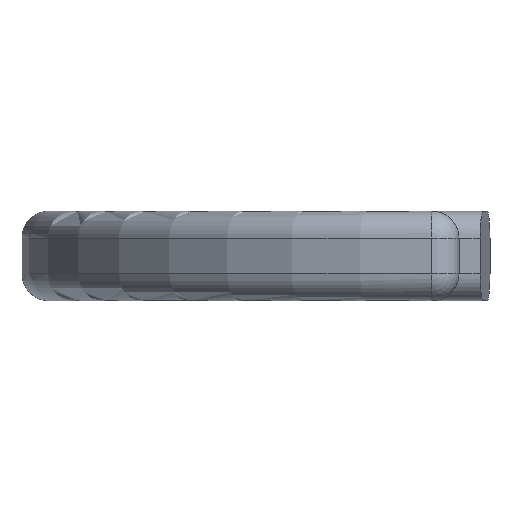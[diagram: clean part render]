
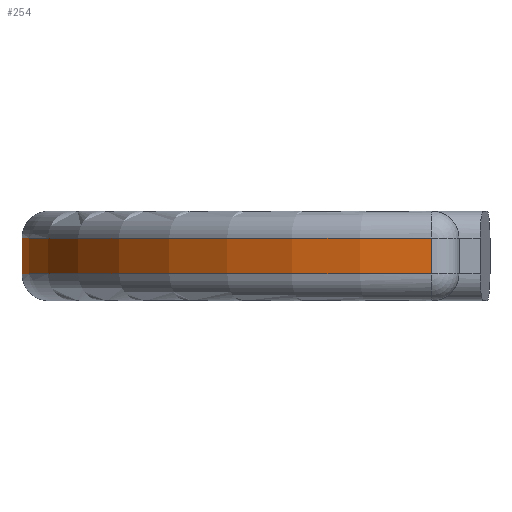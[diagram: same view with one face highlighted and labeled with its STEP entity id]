
A CAD part, front view. The second image highlights one B-rep face of the part: STEP entity #254.
In plain terms, the highlighted cylindrical face has radius 47 mm (diameter 94 mm), a partial arc.
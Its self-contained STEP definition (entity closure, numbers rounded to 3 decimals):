
#51 = VERTEX_POINT ( 'NONE', #543 ) ;
#60 = CARTESIAN_POINT ( 'NONE',  ( -52.588, -42.469, 2. ) ) ;
#94 = EDGE_CURVE ( 'NONE', #156, #51, #1128, .T. ) ;
#131 = EDGE_CURVE ( 'NONE', #1037, #156, #811, .T. ) ;
#136 = DIRECTION ( 'NONE',  ( -1., 0., 0. ) ) ;
#156 = VERTEX_POINT ( 'NONE', #291 ) ;
#172 = ORIENTED_EDGE ( 'NONE', *, *, #131, .T. ) ;
#184 = ORIENTED_EDGE ( 'NONE', *, *, #501, .T. ) ;
#254 = ADVANCED_FACE ( 'NONE', ( #1059 ), #1134, .T. ) ;
#276 = EDGE_LOOP ( 'NONE', ( #380, #906, #184, #172 ) ) ;
#283 = AXIS2_PLACEMENT_3D ( 'NONE', #708, #1180, #605 ) ;
#291 = CARTESIAN_POINT ( 'NONE',  ( -6.972, -88.809, -2. ) ) ;
#305 = CIRCLE ( 'NONE', #986, 47. ) ;
#316 = CARTESIAN_POINT ( 'NONE',  ( -5.593, -41.83, 2. ) ) ;
#380 = ORIENTED_EDGE ( 'NONE', *, *, #94, .T. ) ;
#411 = VERTEX_POINT ( 'NONE', #60 ) ;
#501 = EDGE_CURVE ( 'NONE', #411, #1037, #712, .T. ) ;
#543 = CARTESIAN_POINT ( 'NONE',  ( -6.972, -88.809, 2. ) ) ;
#579 = DIRECTION ( 'NONE',  ( 1., 0., 0. ) ) ;
#596 = DIRECTION ( 'NONE',  ( 0., 0., -1. ) ) ;
#598 = VECTOR ( 'NONE', #967, 1000. ) ;
#605 = DIRECTION ( 'NONE',  ( 1., 0., 0. ) ) ;
#637 = CARTESIAN_POINT ( 'NONE',  ( -52.588, -42.469, -2. ) ) ;
#690 = DIRECTION ( 'NONE',  ( 0., 0., -1. ) ) ;
#708 = CARTESIAN_POINT ( 'NONE',  ( -5.593, -41.83, -2. ) ) ;
#712 = LINE ( 'NONE', #1076, #739 ) ;
#739 = VECTOR ( 'NONE', #933, 1000. ) ;
#744 = EDGE_CURVE ( 'NONE', #51, #411, #305, .T. ) ;
#811 = CIRCLE ( 'NONE', #283, 47. ) ;
#854 = CARTESIAN_POINT ( 'NONE',  ( -6.972, -88.809, 5. ) ) ;
#906 = ORIENTED_EDGE ( 'NONE', *, *, #744, .T. ) ;
#933 = DIRECTION ( 'NONE',  ( 0., 0., -1. ) ) ;
#967 = DIRECTION ( 'NONE',  ( 0., 0., 1. ) ) ;
#986 = AXIS2_PLACEMENT_3D ( 'NONE', #316, #596, #579 ) ;
#1037 = VERTEX_POINT ( 'NONE', #637 ) ;
#1044 = CARTESIAN_POINT ( 'NONE',  ( -5.593, -41.83, 5. ) ) ;
#1059 = FACE_OUTER_BOUND ( 'NONE', #276, .T. ) ;
#1076 = CARTESIAN_POINT ( 'NONE',  ( -52.588, -42.469, 5. ) ) ;
#1102 = AXIS2_PLACEMENT_3D ( 'NONE', #1044, #690, #136 ) ;
#1128 = LINE ( 'NONE', #854, #598 ) ;
#1134 = CYLINDRICAL_SURFACE ( 'NONE', #1102, 47. ) ;
#1180 = DIRECTION ( 'NONE',  ( 0., 0., 1. ) ) ;
